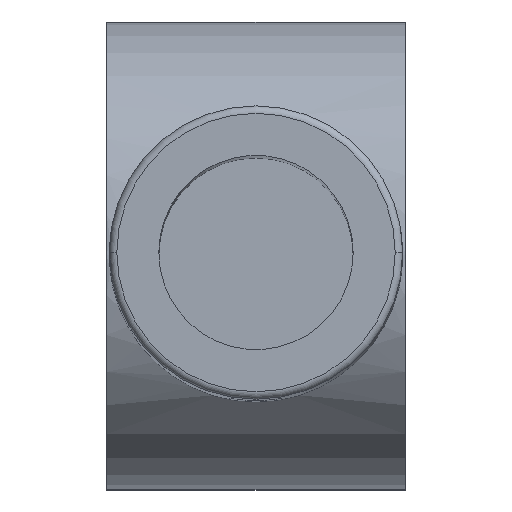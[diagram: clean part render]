
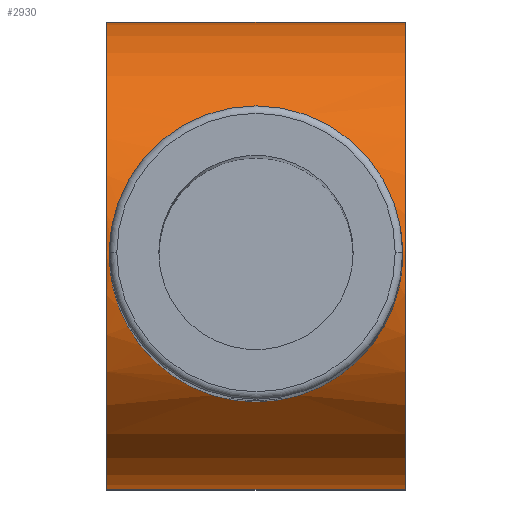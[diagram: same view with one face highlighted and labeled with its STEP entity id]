
A CAD part, top view. The second image highlights one B-rep face of the part: STEP entity #2930.
In plain terms, the highlighted cylindrical face has radius 6.25 mm (diameter 12.5 mm), a partial arc.
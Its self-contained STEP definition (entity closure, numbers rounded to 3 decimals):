
#2817=CARTESIAN_POINT('Axis2P3D Location',(0.,0.,61.6)) ;
#2822=CARTESIAN_POINT('Axis2P3D Location',(4.,0.,61.6)) ;
#2826=CARTESIAN_POINT('Vertex',(4.,-6.25,61.6)) ;
#2828=CARTESIAN_POINT('Vertex',(4.,6.25,61.6)) ;
#2831=CARTESIAN_POINT('Line Origine',(0.,6.25,61.6)) ;
#2835=CARTESIAN_POINT('Vertex',(-4.,6.25,61.6)) ;
#2838=CARTESIAN_POINT('Axis2P3D Location',(-4.,0.,61.6)) ;
#2842=CARTESIAN_POINT('Vertex',(-4.,-6.25,61.6)) ;
#2845=CARTESIAN_POINT('Line Origine',(0.,-6.25,61.6)) ;
#2857=CARTESIAN_POINT('Control Point',(1.159,3.75,66.6)) ;
#2858=CARTESIAN_POINT('Control Point',(1.691,3.586,66.723)) ;
#2859=CARTESIAN_POINT('Control Point',(2.181,3.331,66.904)) ;
#2860=CARTESIAN_POINT('Control Point',(2.613,3.003,67.106)) ;
#2861=CARTESIAN_POINT('Control Point',(3.288,2.283,67.461)) ;
#2862=CARTESIAN_POINT('Control Point',(3.72,1.37,67.721)) ;
#2863=CARTESIAN_POINT('Control Point',(3.857,0.926,67.807)) ;
#2864=CARTESIAN_POINT('Control Point',(3.925,0.463,67.85)) ;
#2865=CARTESIAN_POINT('Control Point',(3.925,0.,67.85)) ;
#2866=CARTESIAN_POINT('Vertex',(1.159,3.75,66.6)) ;
#2868=CARTESIAN_POINT('Vertex',(3.925,0.,67.85)) ;
#2872=CARTESIAN_POINT('Control Point',(1.159,-3.75,66.6)) ;
#2873=CARTESIAN_POINT('Control Point',(1.691,-3.586,66.723)) ;
#2874=CARTESIAN_POINT('Control Point',(2.181,-3.331,66.904)) ;
#2875=CARTESIAN_POINT('Control Point',(2.613,-3.003,67.106)) ;
#2876=CARTESIAN_POINT('Control Point',(3.288,-2.283,67.461)) ;
#2877=CARTESIAN_POINT('Control Point',(3.72,-1.37,67.721)) ;
#2878=CARTESIAN_POINT('Control Point',(3.857,-0.926,67.807)) ;
#2879=CARTESIAN_POINT('Control Point',(3.925,-0.463,67.85)) ;
#2880=CARTESIAN_POINT('Control Point',(3.925,0.,67.85)) ;
#2881=CARTESIAN_POINT('Vertex',(1.159,-3.75,66.6)) ;
#2884=CARTESIAN_POINT('Line Origine',(0.,-3.75,66.6)) ;
#2888=CARTESIAN_POINT('Vertex',(-1.159,-3.75,66.6)) ;
#2892=CARTESIAN_POINT('Control Point',(-1.159,-3.75,66.6)) ;
#2893=CARTESIAN_POINT('Control Point',(-1.691,-3.586,66.723)) ;
#2894=CARTESIAN_POINT('Control Point',(-2.181,-3.331,66.904)) ;
#2895=CARTESIAN_POINT('Control Point',(-2.613,-3.003,67.106)) ;
#2896=CARTESIAN_POINT('Control Point',(-3.288,-2.283,67.461)) ;
#2897=CARTESIAN_POINT('Control Point',(-3.72,-1.37,67.721)) ;
#2898=CARTESIAN_POINT('Control Point',(-3.857,-0.926,67.807)) ;
#2899=CARTESIAN_POINT('Control Point',(-3.925,-0.463,67.85)) ;
#2900=CARTESIAN_POINT('Control Point',(-3.925,0.,67.85)) ;
#2901=CARTESIAN_POINT('Vertex',(-3.925,0.,67.85)) ;
#2905=CARTESIAN_POINT('Control Point',(-1.159,3.75,66.6)) ;
#2906=CARTESIAN_POINT('Control Point',(-1.691,3.586,66.723)) ;
#2907=CARTESIAN_POINT('Control Point',(-2.181,3.331,66.904)) ;
#2908=CARTESIAN_POINT('Control Point',(-2.613,3.003,67.106)) ;
#2909=CARTESIAN_POINT('Control Point',(-3.288,2.283,67.461)) ;
#2910=CARTESIAN_POINT('Control Point',(-3.72,1.37,67.721)) ;
#2911=CARTESIAN_POINT('Control Point',(-3.857,0.926,67.807)) ;
#2912=CARTESIAN_POINT('Control Point',(-3.925,0.463,67.85)) ;
#2913=CARTESIAN_POINT('Control Point',(-3.925,0.,67.85)) ;
#2914=CARTESIAN_POINT('Vertex',(-1.159,3.75,66.6)) ;
#2917=CARTESIAN_POINT('Line Origine',(0.,3.75,66.6)) ;
#2818=DIRECTION('Axis2P3D Direction',(-1.,0.,0.)) ;
#2819=DIRECTION('Axis2P3D XDirection',(0.,1.,0.)) ;
#2823=DIRECTION('Axis2P3D Direction',(-1.,0.,0.)) ;
#2832=DIRECTION('Vector Direction',(-1.,0.,0.)) ;
#2839=DIRECTION('Axis2P3D Direction',(-1.,0.,0.)) ;
#2846=DIRECTION('Vector Direction',(-1.,0.,0.)) ;
#2885=DIRECTION('Vector Direction',(-1.,0.,0.)) ;
#2918=DIRECTION('Vector Direction',(-1.,0.,0.)) ;
#2820=AXIS2_PLACEMENT_3D('Cylinder Axis2P3D',#2817,#2818,#2819) ;
#2824=AXIS2_PLACEMENT_3D('Circle Axis2P3D',#2822,#2823,$) ;
#2840=AXIS2_PLACEMENT_3D('Circle Axis2P3D',#2838,#2839,$) ;
#2851=ORIENTED_EDGE('',*,*,#2830,.T.) ;
#2852=ORIENTED_EDGE('',*,*,#2837,.F.) ;
#2853=ORIENTED_EDGE('',*,*,#2844,.F.) ;
#2854=ORIENTED_EDGE('',*,*,#2849,.T.) ;
#2923=ORIENTED_EDGE('',*,*,#2870,.T.) ;
#2924=ORIENTED_EDGE('',*,*,#2883,.F.) ;
#2925=ORIENTED_EDGE('',*,*,#2890,.F.) ;
#2926=ORIENTED_EDGE('',*,*,#2903,.T.) ;
#2927=ORIENTED_EDGE('',*,*,#2916,.F.) ;
#2928=ORIENTED_EDGE('',*,*,#2921,.T.) ;
#2929=FACE_BOUND('',#2922,.T.) ;
#2833=VECTOR('Line Direction',#2832,1.) ;
#2847=VECTOR('Line Direction',#2846,1.) ;
#2886=VECTOR('Line Direction',#2885,1.) ;
#2919=VECTOR('Line Direction',#2918,1.) ;
#2930=ADVANCED_FACE('\X2\96F64EF651E04F554F53\X0\',(#2855,#2929),#2821,.T.) ;
#2856=B_SPLINE_CURVE_WITH_KNOTS('',5,(#2857,#2858,#2859,#2860,#2861,#2862,#2863,#2864,#2865),.UNSPECIFIED.,.F.,.U.,(6,3,6),(0.,4.031,7.305),.UNSPECIFIED.) ;
#2871=B_SPLINE_CURVE_WITH_KNOTS('',5,(#2872,#2873,#2874,#2875,#2876,#2877,#2878,#2879,#2880),.UNSPECIFIED.,.F.,.U.,(6,3,6),(0.,4.031,7.305),.UNSPECIFIED.) ;
#2891=B_SPLINE_CURVE_WITH_KNOTS('',5,(#2892,#2893,#2894,#2895,#2896,#2897,#2898,#2899,#2900),.UNSPECIFIED.,.F.,.U.,(6,3,6),(0.,4.031,7.305),.UNSPECIFIED.) ;
#2904=B_SPLINE_CURVE_WITH_KNOTS('',5,(#2905,#2906,#2907,#2908,#2909,#2910,#2911,#2912,#2913),.UNSPECIFIED.,.F.,.U.,(6,3,6),(0.,4.031,7.305),.UNSPECIFIED.) ;
#2825=CIRCLE('generated circle',#2824,6.25) ;
#2841=CIRCLE('generated circle',#2840,6.25) ;
#2821=CYLINDRICAL_SURFACE('generated cylinder',#2820,6.25) ;
#2830=EDGE_CURVE('',#2827,#2829,#2825,.T.) ;
#2837=EDGE_CURVE('',#2836,#2829,#2834,.F.) ;
#2844=EDGE_CURVE('',#2843,#2836,#2841,.T.) ;
#2849=EDGE_CURVE('',#2843,#2827,#2848,.F.) ;
#2870=EDGE_CURVE('',#2867,#2869,#2856,.T.) ;
#2883=EDGE_CURVE('',#2882,#2869,#2871,.T.) ;
#2890=EDGE_CURVE('',#2889,#2882,#2887,.F.) ;
#2903=EDGE_CURVE('',#2889,#2902,#2891,.T.) ;
#2916=EDGE_CURVE('',#2915,#2902,#2904,.T.) ;
#2921=EDGE_CURVE('',#2915,#2867,#2920,.F.) ;
#2850=EDGE_LOOP('',(#2851,#2852,#2853,#2854)) ;
#2922=EDGE_LOOP('',(#2923,#2924,#2925,#2926,#2927,#2928)) ;
#2855=FACE_OUTER_BOUND('',#2850,.T.) ;
#2834=LINE('Line',#2831,#2833) ;
#2848=LINE('Line',#2845,#2847) ;
#2887=LINE('Line',#2884,#2886) ;
#2920=LINE('Line',#2917,#2919) ;
#2827=VERTEX_POINT('',#2826) ;
#2829=VERTEX_POINT('',#2828) ;
#2836=VERTEX_POINT('',#2835) ;
#2843=VERTEX_POINT('',#2842) ;
#2867=VERTEX_POINT('',#2866) ;
#2869=VERTEX_POINT('',#2868) ;
#2882=VERTEX_POINT('',#2881) ;
#2889=VERTEX_POINT('',#2888) ;
#2902=VERTEX_POINT('',#2901) ;
#2915=VERTEX_POINT('',#2914) ;
